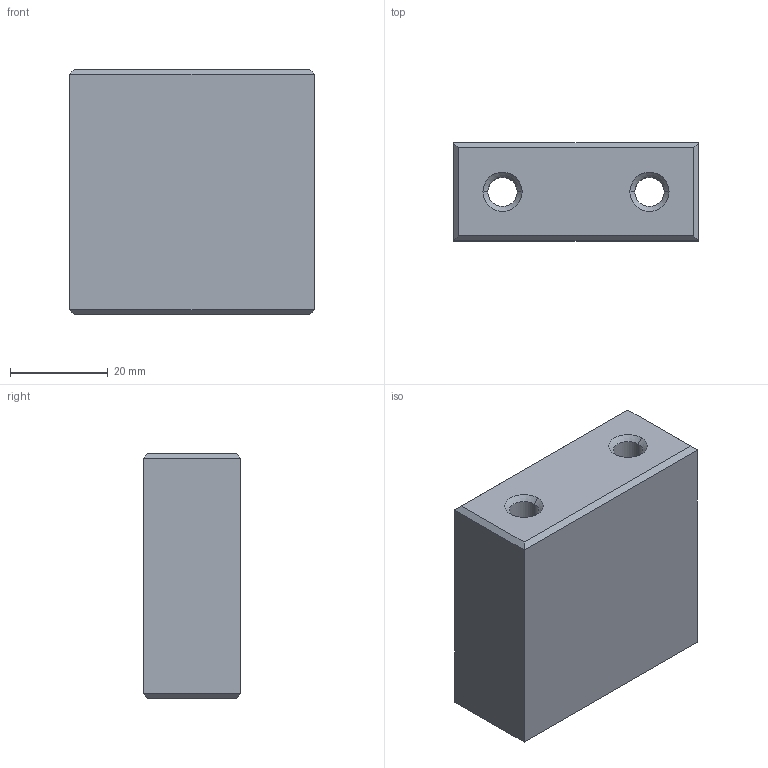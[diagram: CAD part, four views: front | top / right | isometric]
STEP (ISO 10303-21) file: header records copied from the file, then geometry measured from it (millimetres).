
FILE_DESCRIPTION(('CATIA V5 STEP Exchange'),'2;1');
FILE_NAME('C:\Users\Administrator\Desktop\汕德卡换档扶手\上盖板安装治具\上盖板下支承块-05\ZCK-9.stp','2021-12-03T02:51:12+00:00',('none'),('none'),'CATIA Version 5 Release 20 GA (IN-10)','CATIA V5 STEP AP203','none');
FILE_SCHEMA(('CONFIG_CONTROL_DESIGN'));
Length unit declared in the file: millimetre
Products named in the file (1): ZCK-9
Bounding box: 50 x 20 x 50 mm (x, y, z)
Volume: 46993.3 mm3; surface area: 10565.6 mm2
Topology: 1 solids, 1 shells, 26 faces, 56 edges, 32 vertices
Faces by surface type: plane 14, cone 8, cylinder 4
Entity records: 704 total; most frequent: CARTESIAN_POINT 121, ORIENTED_EDGE 112, DIRECTION 96, EDGE_CURVE 56, AXIS2_PLACEMENT_3D 41, VECTOR 32, LINE 32, VERTEX_POINT 32
